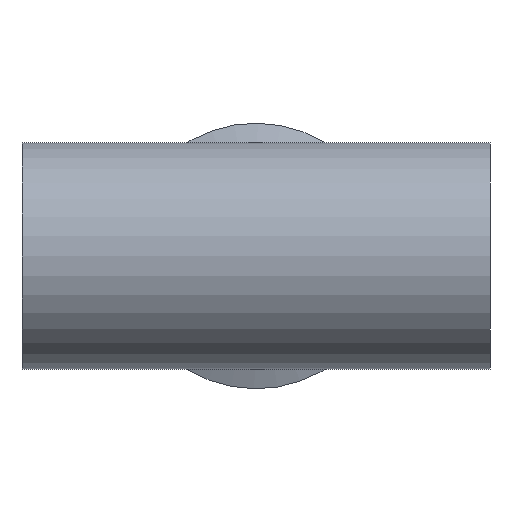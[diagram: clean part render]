
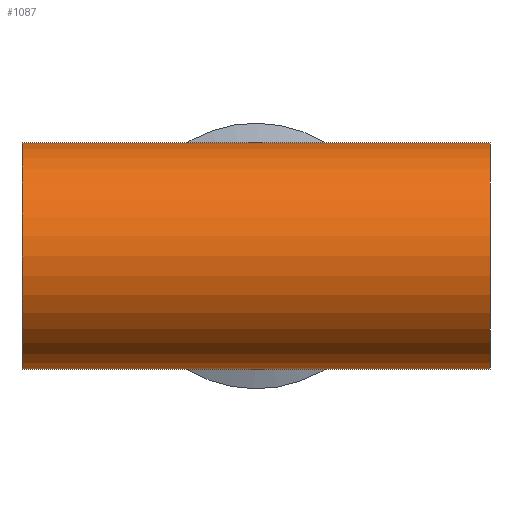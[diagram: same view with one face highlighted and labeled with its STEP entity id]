
A CAD part, front view. The second image highlights one B-rep face of the part: STEP entity #1087.
In plain terms, the highlighted cylindrical face has radius 50.8 mm (diameter 101.6 mm), a partial arc.
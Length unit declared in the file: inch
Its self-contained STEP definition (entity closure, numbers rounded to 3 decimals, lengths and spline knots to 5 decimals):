
#10 = EDGE_CURVE ( 'NONE', #940, #298, #336, .T. ) ;
#24 = ORIENTED_EDGE ( 'NONE', *, *, #784, .F. ) ;
#35 = FACE_OUTER_BOUND ( 'NONE', #682, .T. ) ;
#41 = VERTEX_POINT ( 'NONE', #920 ) ;
#48 = EDGE_CURVE ( 'NONE', #503, #41, #566, .T. ) ;
#55 = EDGE_CURVE ( 'NONE', #332, #41, #190, .T. ) ;
#60 = ORIENTED_EDGE ( 'NONE', *, *, #93, .T. ) ;
#78 = DIRECTION ( 'NONE',  ( 0., 0., 1. ) ) ;
#93 = EDGE_CURVE ( 'NONE', #940, #802, #222, .T. ) ;
#123 = DIRECTION ( 'NONE',  ( -1., 0., 0. ) ) ;
#138 = CARTESIAN_POINT ( 'NONE',  ( -4.125, 0., 2. ) ) ;
#159 = DIRECTION ( 'NONE',  ( 1., 0., 0. ) ) ;
#190 = LINE ( 'NONE', #489, #1132 ) ;
#222 = LINE ( 'NONE', #270, #567 ) ;
#270 = CARTESIAN_POINT ( 'NONE',  ( 4.125, 0., 2. ) ) ;
#296 = CARTESIAN_POINT ( 'NONE',  ( 4.125, 0., 2. ) ) ;
#298 = VERTEX_POINT ( 'NONE', #887 ) ;
#301 = DIRECTION ( 'NONE',  ( -1., 0., 0. ) ) ;
#327 = ORIENTED_EDGE ( 'NONE', *, *, #48, .T. ) ;
#329 = CARTESIAN_POINT ( 'NONE',  ( 4.125, 0., 0. ) ) ;
#332 = VERTEX_POINT ( 'NONE', #542 ) ;
#336 = CIRCLE ( 'NONE', #935, 2. ) ;
#376 = ORIENTED_EDGE ( 'NONE', *, *, #10, .F. ) ;
#411 = AXIS2_PLACEMENT_3D ( 'NONE', #568, #1110, #479 ) ;
#414 = DIRECTION ( 'NONE',  ( -1., 0., 0. ) ) ;
#473 = VECTOR ( 'NONE', #301, 39.37008 ) ;
#479 = DIRECTION ( 'NONE',  ( 0., 0., -1. ) ) ;
#489 = CARTESIAN_POINT ( 'NONE',  ( 4.125, 0., -2. ) ) ;
#503 = VERTEX_POINT ( 'NONE', #138 ) ;
#542 = CARTESIAN_POINT ( 'NONE',  ( 0., 0., -2. ) ) ;
#566 = CIRCLE ( 'NONE', #411, 2. ) ;
#567 = VECTOR ( 'NONE', #123, 39.37008 ) ;
#568 = CARTESIAN_POINT ( 'NONE',  ( -4.125, 0., 0. ) ) ;
#573 = CARTESIAN_POINT ( 'NONE',  ( 4.125, 0., 2. ) ) ;
#637 = CARTESIAN_POINT ( 'NONE',  ( 4.125, 0., -2. ) ) ;
#644 = CARTESIAN_POINT ( 'NONE',  ( 0., 0., 2. ) ) ;
#663 = DIRECTION ( 'NONE',  ( 0., 0., -1. ) ) ;
#678 = CYLINDRICAL_SURFACE ( 'NONE', #1084, 2. ) ;
#682 = EDGE_LOOP ( 'NONE', ( #24, #376, #60, #742, #327, #761 ) ) ;
#697 = LINE ( 'NONE', #296, #473 ) ;
#731 = VECTOR ( 'NONE', #1090, 39.37008 ) ;
#742 = ORIENTED_EDGE ( 'NONE', *, *, #790, .T. ) ;
#745 = DIRECTION ( 'NONE',  ( -1., 0., 0. ) ) ;
#754 = CARTESIAN_POINT ( 'NONE',  ( 4.125, 0., 0. ) ) ;
#761 = ORIENTED_EDGE ( 'NONE', *, *, #55, .F. ) ;
#784 = EDGE_CURVE ( 'NONE', #298, #332, #963, .T. ) ;
#790 = EDGE_CURVE ( 'NONE', #802, #503, #697, .T. ) ;
#802 = VERTEX_POINT ( 'NONE', #644 ) ;
#887 = CARTESIAN_POINT ( 'NONE',  ( 4.125, 0., -2. ) ) ;
#920 = CARTESIAN_POINT ( 'NONE',  ( -4.125, 0., -2. ) ) ;
#935 = AXIS2_PLACEMENT_3D ( 'NONE', #754, #159, #663 ) ;
#940 = VERTEX_POINT ( 'NONE', #573 ) ;
#963 = LINE ( 'NONE', #637, #731 ) ;
#1084 = AXIS2_PLACEMENT_3D ( 'NONE', #329, #414, #78 ) ;
#1087 = ADVANCED_FACE ( 'NONE', ( #35 ), #678, .T. ) ;
#1090 = DIRECTION ( 'NONE',  ( -1., 0., 0. ) ) ;
#1110 = DIRECTION ( 'NONE',  ( 1., 0., 0. ) ) ;
#1132 = VECTOR ( 'NONE', #745, 39.37008 ) ;
